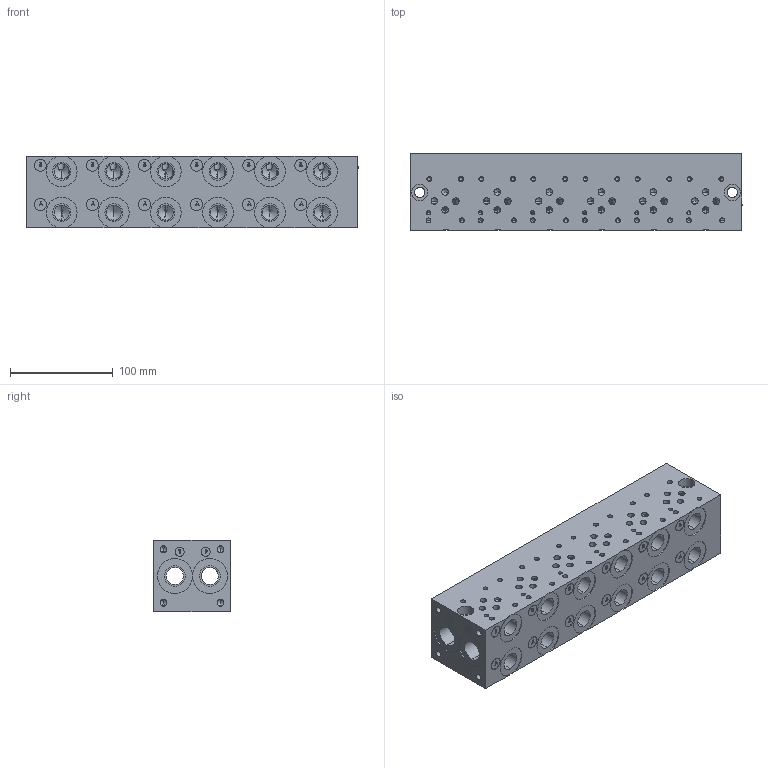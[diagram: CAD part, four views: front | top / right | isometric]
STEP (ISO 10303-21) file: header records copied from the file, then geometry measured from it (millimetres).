
FILE_DESCRIPTION (( 'STEP AP203' ), '1' );
FILE_NAME ('BM-ASP03S2-06-1_Z.STEP', '2015-01-06T15:39:37', ( '' ), ( '' ), 'SwSTEP 2.0', 'SolidWorks 2014', '' );
FILE_SCHEMA (( 'CONFIG_CONTROL_DESIGN' ));
Length unit declared in the file: inch
Products named in the file (1): BM-ASP03S2-06-1_Z
Bounding box: 323.85 x 74.93 x 69.85 mm (x, y, z)
Volume: 1434652.6 mm3; surface area: 180394.6 mm2
Topology: 1 solids, 1 shells, 786 faces, 2005 edges, 1231 vertices
Faces by surface type: cylinder 312, plane 270, cone 138, bspline 66
Entity records: 28468 total; most frequent: CARTESIAN_POINT 10109, ORIENTED_EDGE 3770, DIRECTION 3655, EDGE_CURVE 1885, AXIS2_PLACEMENT_3D 1323, VERTEX_POINT 1231, VECTOR 1009, LINE 1009
